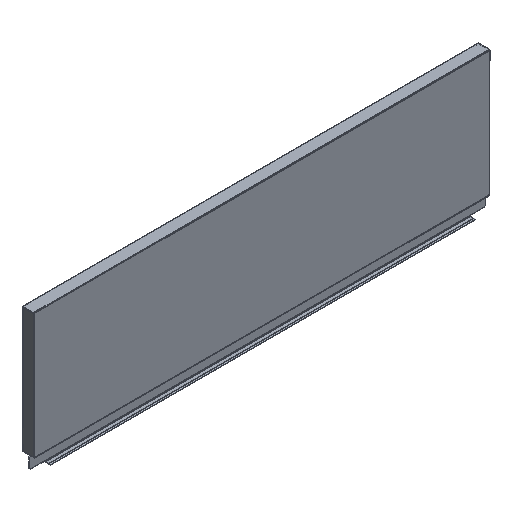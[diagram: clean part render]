
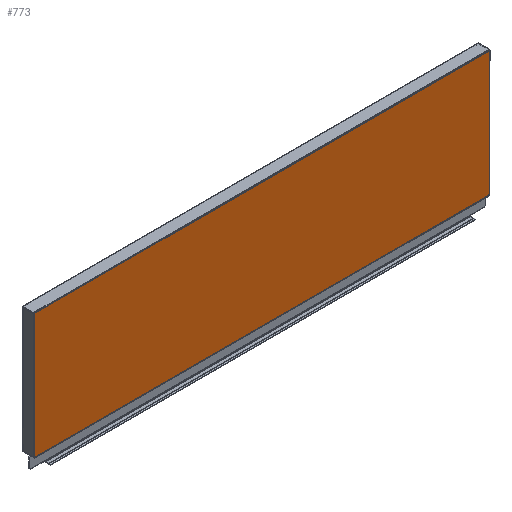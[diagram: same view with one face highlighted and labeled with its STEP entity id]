
A CAD part, isometric view. The second image highlights one B-rep face of the part: STEP entity #773.
In plain terms, the highlighted planar face has unit normal (0, -1, 0).
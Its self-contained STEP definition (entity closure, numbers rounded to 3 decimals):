
#186 = VERTEX_POINT ( 'NONE', #393 ) ;
#191 = VERTEX_POINT ( 'NONE', #392 ) ;
#229 = VERTEX_POINT ( 'NONE', #384 ) ;
#279 = VERTEX_POINT ( 'NONE', #371 ) ;
#282 = VERTEX_POINT ( 'NONE', #370 ) ;
#304 = VERTEX_POINT ( 'NONE', #369 ) ;
#333 = CARTESIAN_POINT ( 'NONE',  ( 303.5, -6., 17.5 ) ) ;
#358 = CARTESIAN_POINT ( 'NONE',  ( 304., -6., 184. ) ) ;
#359 = CARTESIAN_POINT ( 'NONE',  ( -304., -6., 184. ) ) ;
#363 = CARTESIAN_POINT ( 'NONE',  ( 303.5, -6., 17. ) ) ;
#369 = CARTESIAN_POINT ( 'NONE',  ( -304., -6., 183.5 ) ) ;
#370 = CARTESIAN_POINT ( 'NONE',  ( -304., -6., 17.5 ) ) ;
#371 = CARTESIAN_POINT ( 'NONE',  ( -303.5, -6., 17.5 ) ) ;
#384 = CARTESIAN_POINT ( 'NONE',  ( -303.5, -6., 17. ) ) ;
#392 = CARTESIAN_POINT ( 'NONE',  ( 304., -6., 17.5 ) ) ;
#393 = CARTESIAN_POINT ( 'NONE',  ( 304., -6., 183.5 ) ) ;
#448 = VERTEX_POINT ( 'NONE', #363 ) ;
#451 = VERTEX_POINT ( 'NONE', #359 ) ;
#452 = VERTEX_POINT ( 'NONE', #358 ) ;
#492 = VERTEX_POINT ( 'NONE', #333 ) ;
#661 = AXIS2_PLACEMENT_3D ( 'NONE', #1528, #1524, #1522 ) ;
#773 = ADVANCED_FACE ( 'NONE', ( #2138 ), #1533, .T. ) ;
#1001 = EDGE_LOOP ( 'NONE', ( #1920, #1919, #1918, #1917, #1916, #1915, #1914, #1913, #1912, #1911 ) ) ;
#1127 = DIRECTION ( 'NONE',  ( 0., 0., -1. ) ) ;
#1129 = CARTESIAN_POINT ( 'NONE',  ( 304., -6., 202.385 ) ) ;
#1130 = DIRECTION ( 'NONE',  ( 0., 0., -1. ) ) ;
#1131 = CARTESIAN_POINT ( 'NONE',  ( -304., -6., 202.385 ) ) ;
#1133 = DIRECTION ( 'NONE',  ( 0., 0., -1. ) ) ;
#1135 = CARTESIAN_POINT ( 'NONE',  ( 304., -6., 202.385 ) ) ;
#1136 = DIRECTION ( 'NONE',  ( 1., 0., 0. ) ) ;
#1137 = CARTESIAN_POINT ( 'NONE',  ( -305., -6., 184. ) ) ;
#1139 = DIRECTION ( 'NONE',  ( 1., 0., 0. ) ) ;
#1141 = CARTESIAN_POINT ( 'NONE',  ( 303.5, -6., 17.5 ) ) ;
#1142 = DIRECTION ( 'NONE',  ( 0., 0., 1. ) ) ;
#1143 = CARTESIAN_POINT ( 'NONE',  ( 303.5, -6., 15.3 ) ) ;
#1144 = DIRECTION ( 'NONE',  ( 1., 0., 0. ) ) ;
#1146 = CARTESIAN_POINT ( 'NONE',  ( -305., -6., 17. ) ) ;
#1299 = CARTESIAN_POINT ( 'NONE',  ( -304., -6., 202.385 ) ) ;
#1300 = DIRECTION ( 'NONE',  ( 0., 0., -1. ) ) ;
#1301 = CARTESIAN_POINT ( 'NONE',  ( -305., -6., 17.5 ) ) ;
#1302 = DIRECTION ( 'NONE',  ( 1., 0., 0. ) ) ;
#1303 = CARTESIAN_POINT ( 'NONE',  ( -303.5, -6., 17.5 ) ) ;
#1304 = DIRECTION ( 'NONE',  ( 0., 0., -1. ) ) ;
#1412 = EDGE_CURVE ( 'NONE', #229, #448, #2295, .T. ) ;
#1413 = EDGE_CURVE ( 'NONE', #448, #492, #2298, .T. ) ;
#1414 = EDGE_CURVE ( 'NONE', #492, #191, #2300, .T. ) ;
#1415 = EDGE_CURVE ( 'NONE', #451, #452, #2302, .T. ) ;
#1416 = EDGE_CURVE ( 'NONE', #186, #191, #2304, .T. ) ;
#1417 = EDGE_CURVE ( 'NONE', #451, #304, #2306, .T. ) ;
#1418 = EDGE_CURVE ( 'NONE', #452, #186, #2308, .T. ) ;
#1522 = DIRECTION ( 'NONE',  ( 1., 0., 0. ) ) ;
#1524 = DIRECTION ( 'NONE',  ( 0., -1., 0. ) ) ;
#1528 = CARTESIAN_POINT ( 'NONE',  ( -305., -6., 17. ) ) ;
#1533 = PLANE ( 'NONE',  #661 ) ;
#1911 = ORIENTED_EDGE ( 'NONE', *, *, #1417, .T. ) ;
#1912 = ORIENTED_EDGE ( 'NONE', *, *, #1415, .F. ) ;
#1913 = ORIENTED_EDGE ( 'NONE', *, *, #1418, .F. ) ;
#1914 = ORIENTED_EDGE ( 'NONE', *, *, #1416, .F. ) ;
#1915 = ORIENTED_EDGE ( 'NONE', *, *, #1414, .T. ) ;
#1916 = ORIENTED_EDGE ( 'NONE', *, *, #1413, .T. ) ;
#1917 = ORIENTED_EDGE ( 'NONE', *, *, #1412, .T. ) ;
#1918 = ORIENTED_EDGE ( 'NONE', *, *, #2484, .T. ) ;
#1919 = ORIENTED_EDGE ( 'NONE', *, *, #2483, .T. ) ;
#1920 = ORIENTED_EDGE ( 'NONE', *, *, #2482, .T. ) ;
#2138 = FACE_OUTER_BOUND ( 'NONE', #1001, .T. ) ;
#2295 = LINE ( 'NONE', #1146, #2297 ) ;
#2297 = VECTOR ( 'NONE', #1144, 1000. ) ;
#2298 = LINE ( 'NONE', #1143, #2299 ) ;
#2299 = VECTOR ( 'NONE', #1142, 1000. ) ;
#2300 = LINE ( 'NONE', #1141, #2301 ) ;
#2301 = VECTOR ( 'NONE', #1139, 1000. ) ;
#2302 = LINE ( 'NONE', #1137, #2303 ) ;
#2303 = VECTOR ( 'NONE', #1136, 1000. ) ;
#2304 = LINE ( 'NONE', #1135, #2305 ) ;
#2305 = VECTOR ( 'NONE', #1133, 1000. ) ;
#2306 = LINE ( 'NONE', #1131, #2307 ) ;
#2307 = VECTOR ( 'NONE', #1130, 1000. ) ;
#2308 = LINE ( 'NONE', #1129, #2309 ) ;
#2309 = VECTOR ( 'NONE', #1127, 1000. ) ;
#2410 = LINE ( 'NONE', #1299, #2412 ) ;
#2412 = VECTOR ( 'NONE', #1300, 1000. ) ;
#2413 = LINE ( 'NONE', #1301, #2414 ) ;
#2414 = VECTOR ( 'NONE', #1302, 1000. ) ;
#2415 = LINE ( 'NONE', #1303, #2416 ) ;
#2416 = VECTOR ( 'NONE', #1304, 1000. ) ;
#2482 = EDGE_CURVE ( 'NONE', #304, #282, #2410, .T. ) ;
#2483 = EDGE_CURVE ( 'NONE', #282, #279, #2413, .T. ) ;
#2484 = EDGE_CURVE ( 'NONE', #279, #229, #2415, .T. ) ;
